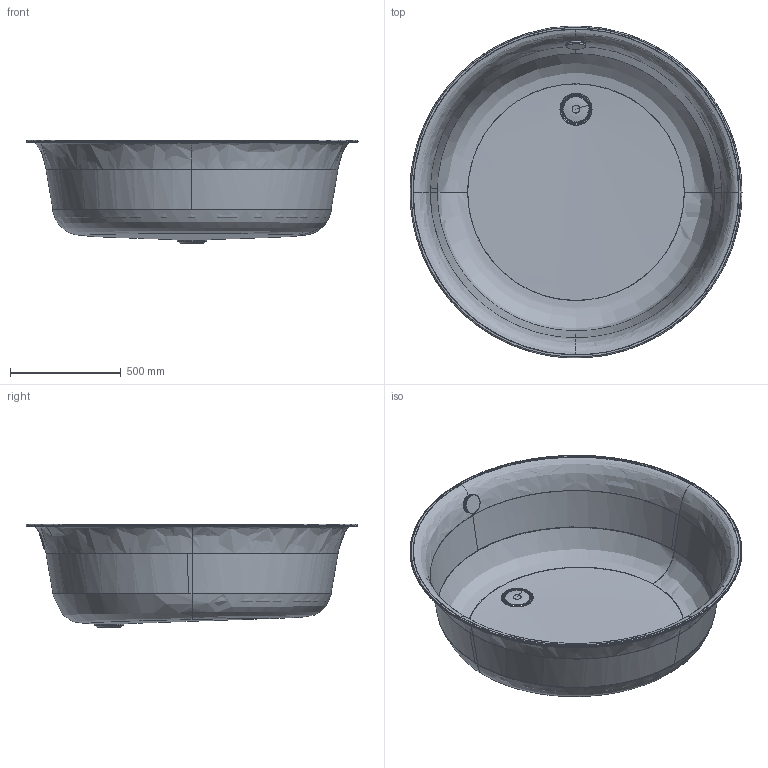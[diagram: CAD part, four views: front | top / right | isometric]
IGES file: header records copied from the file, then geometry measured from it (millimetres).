
Start section: Write IGES format                                    datakit 2008 (c)
Global section: file name: Unknown; native system: DATAKIT Converter; preprocessor: Unknown; author: Unknown; organization: Unknown; date: 950613.180003; units: millimetre
Bounding box: 1499.99 x 1499.39 x 467.52 mm (x, y, z)
Surface area: 6193633.3 mm2 (no closed solid volume)
Topology: 0 solids, 4 shells, 98 faces, 644 edges, 630 vertices
Faces by surface type: bspline 52, revolution 43, offset 3
